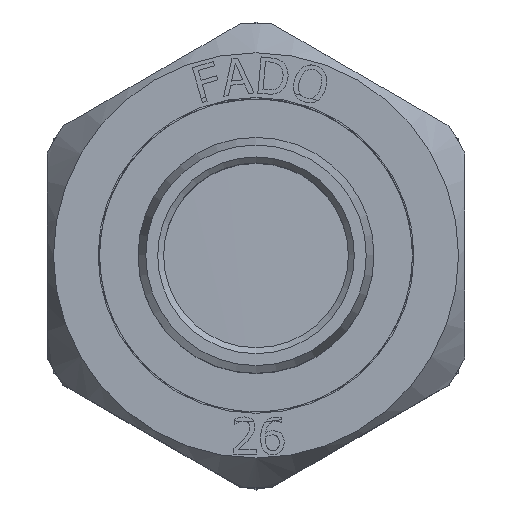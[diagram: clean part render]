
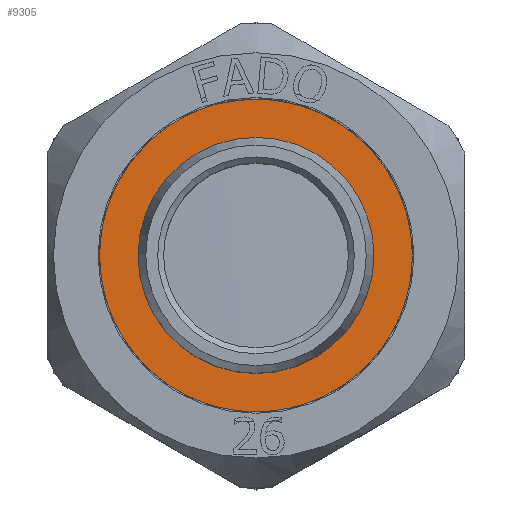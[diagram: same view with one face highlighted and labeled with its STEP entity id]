
A CAD part, top view. The second image highlights one B-rep face of the part: STEP entity #9305.
In plain terms, the highlighted planar face has unit normal (0, 0, 1) as drawn and (0, 0, -1) by its records, which use the part's own axes.
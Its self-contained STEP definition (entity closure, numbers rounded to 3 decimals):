
#1107=FACE_BOUND('',#2046,.T.);
#1210=PLANE('',#9955);
#1489=FACE_OUTER_BOUND('',#2045,.T.);
#2045=EDGE_LOOP('',(#7313,#7314));
#2046=EDGE_LOOP('',(#7315,#7316));
#2485=CIRCLE('',#9953,9.9);
#2486=CIRCLE('',#9954,9.9);
#2487=CIRCLE('',#9956,13.25);
#2488=CIRCLE('',#9957,13.25);
#4119=VERTEX_POINT('',#30016);
#4120=VERTEX_POINT('',#30017);
#4121=VERTEX_POINT('',#30022);
#4122=VERTEX_POINT('',#30023);
#5285=EDGE_CURVE('',#4119,#4120,#2485,.T.);
#5286=EDGE_CURVE('',#4120,#4119,#2486,.T.);
#5288=EDGE_CURVE('',#4121,#4122,#2487,.T.);
#5289=EDGE_CURVE('',#4122,#4121,#2488,.T.);
#7313=ORIENTED_EDGE('',*,*,#5288,.F.);
#7314=ORIENTED_EDGE('',*,*,#5289,.F.);
#7315=ORIENTED_EDGE('',*,*,#5285,.T.);
#7316=ORIENTED_EDGE('',*,*,#5286,.T.);
#9305=ADVANCED_FACE('',(#1489,#1107),#1210,.T.);
#9953=AXIS2_PLACEMENT_3D('',#30018,#10949,#10950);
#9954=AXIS2_PLACEMENT_3D('',#30019,#10951,#10952);
#9955=AXIS2_PLACEMENT_3D('',#30021,#10954,#10955);
#9956=AXIS2_PLACEMENT_3D('',#30024,#10956,#10957);
#9957=AXIS2_PLACEMENT_3D('',#30025,#10958,#10959);
#10949=DIRECTION('center_axis',(0.,0.,1.));
#10950=DIRECTION('ref_axis',(1.,0.,0.));
#10951=DIRECTION('center_axis',(0.,0.,1.));
#10952=DIRECTION('ref_axis',(1.,0.,0.));
#10954=DIRECTION('center_axis',(0.,0.,-1.));
#10955=DIRECTION('ref_axis',(-1.,0.,0.));
#10956=DIRECTION('center_axis',(0.,0.,1.));
#10957=DIRECTION('ref_axis',(1.,0.,0.));
#10958=DIRECTION('center_axis',(0.,0.,1.));
#10959=DIRECTION('ref_axis',(1.,0.,0.));
#30016=CARTESIAN_POINT('',(0.,-9.9,-10.087));
#30017=CARTESIAN_POINT('',(0.,9.9,-10.087));
#30018=CARTESIAN_POINT('Origin',(0.,0.,-10.087));
#30019=CARTESIAN_POINT('Origin',(0.,0.,-10.087));
#30021=CARTESIAN_POINT('Origin',(0.,-13.25,-10.087));
#30022=CARTESIAN_POINT('',(0.,-13.25,-10.087));
#30023=CARTESIAN_POINT('',(0.,13.25,-10.087));
#30024=CARTESIAN_POINT('Origin',(0.,0.,-10.087));
#30025=CARTESIAN_POINT('Origin',(0.,0.,-10.087));
